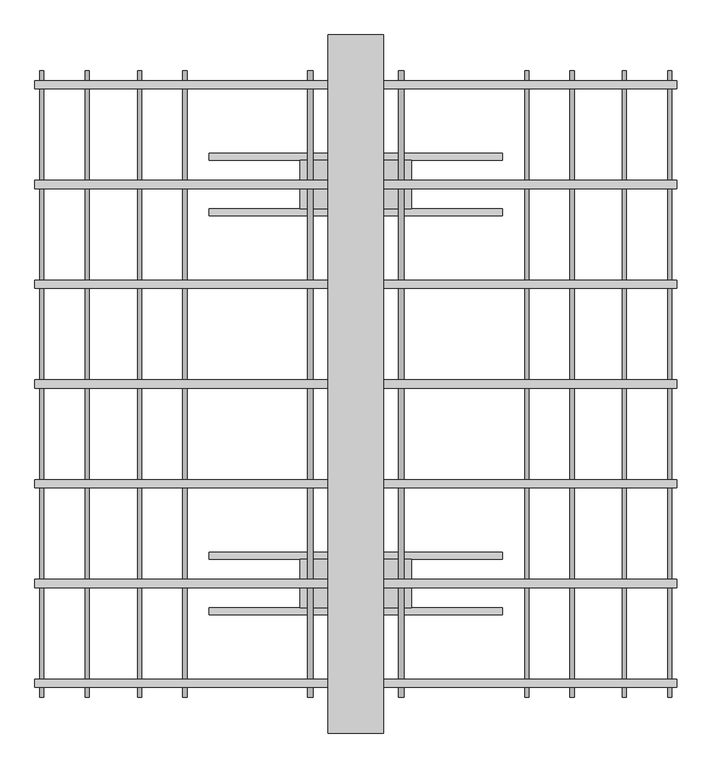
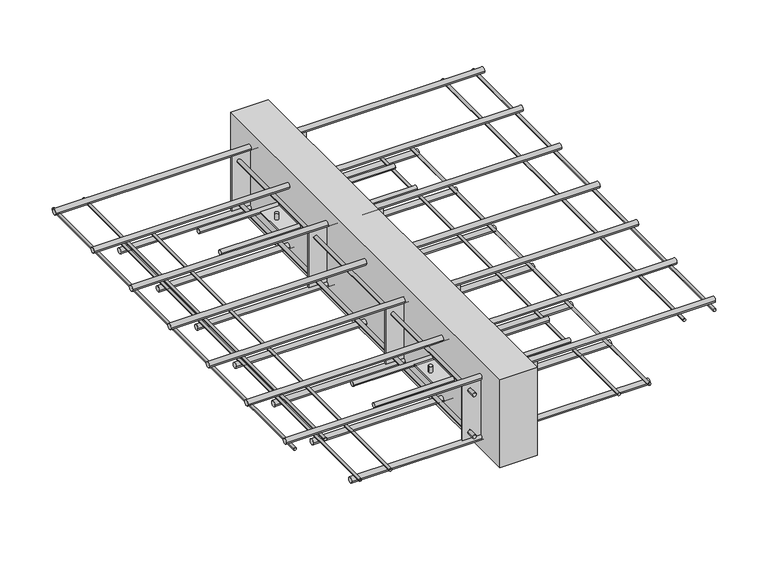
"""IFC4 building model written with IfcOpenShell, lengths in millimetres: fastener geometry, ACINOXplus_Typenreihe_K : KE+ S2."""

import ifcopenshell
import ifcopenshell.guid

model = None  # the IFC model being written
_history = None  # IfcOwnerHistory: only IFC2X3 demands one
_inside = {}  # id of a spatial element -> (the spatial element, [elements in it])
_under = {}  # id of a project, library or spatial element -> (it, [spatial elements below it])
_declared = {}  # id of a project -> (the project, [libraries it declares])
_typed = {}  # id of a type object -> (the type object, [elements of that type])
_made_of = {}  # id of a material, layer set ... -> (it, [elements and type objects made of it])


def new_model(schema):
    """Start an empty IFC model of exactly this schema.

    Asked for "IFC4X3", IfcOpenShell would pick the latest addendum, in which some entities
    have other attributes; the version numbers below select the first issue.
    IFC2X3 requires an IfcOwnerHistory on every rooted entity: one is made here for all.
    """
    global model, _history
    if schema == "IFC4X3":
        model = ifcopenshell.file(schema_version=(4, 3, 0, 0))
    else:
        model = ifcopenshell.file(schema=schema)
    _inside.clear()
    _under.clear()
    _declared.clear()
    _typed.clear()
    _made_of.clear()
    _history = None
    if model.schema == "IFC2X3":
        org = make("IfcOrganization", Name="unknown")
        user = make(
            "IfcPersonAndOrganization",
            ThePerson=make("IfcPerson", FamilyName="unknown"),
            TheOrganization=org,
        )
        app = make(
            "IfcApplication",
            ApplicationDeveloper=org,
            Version="unknown",
            ApplicationFullName="unknown",
            ApplicationIdentifier="unknown",
        )
        _history = make(
            "IfcOwnerHistory",
            OwningUser=user,
            OwningApplication=app,
            ChangeAction="ADDED",
            CreationDate=0,
        )
    return model


def make(cls, **values):
    """One entity of the class cls with the attributes given. An attribute that is None is left unset."""
    return model.create_entity(
        cls, **{name: value for name, value in values.items() if value is not None}
    )


def rooted(cls, **values):
    """An entity with a GlobalId (a new one), such as an element, a storey or a relation."""
    return make(cls, GlobalId=ifcopenshell.guid.new(), OwnerHistory=_history, **values)


def si_unit(unit_type, name, prefix=None):
    """IfcSIUnit, for example si_unit("LENGTHUNIT", "METRE", prefix="MILLI")."""
    return make("IfcSIUnit", UnitType=unit_type, Prefix=prefix, Name=name)


def assignment(units):
    """IfcUnitAssignment: the units of a project."""
    return None if units is None else make("IfcUnitAssignment", Units=units)


def point(xyz):
    """IfcCartesianPoint."""
    return None if xyz is None else make("IfcCartesianPoint", Coordinates=xyz)


def direction(xyz):
    """IfcDirection."""
    return None if xyz is None else make("IfcDirection", DirectionRatios=xyz)


def frame(location, z_axis=None, x_axis=None):
    """IfcAxis2Placement3D, a coordinate frame: its origin and axes. An axis left out is left unset."""
    return make(
        "IfcAxis2Placement3D",
        Location=point(location),
        Axis=direction(z_axis),
        RefDirection=direction(x_axis),
    )


def frame_2d(location, x_axis=None):
    """IfcAxis2Placement2D, a coordinate frame in the plane: its origin and x axis."""
    return make(
        "IfcAxis2Placement2D", Location=point(location), RefDirection=direction(x_axis)
    )


def origin():
    """The frame at (0, 0, 0) with its axes left unset."""
    return frame((0.0, 0.0, 0.0))


def place(relative_to, where):
    """IfcLocalPlacement: puts the frame where relative to a parent placement (None: the world)."""
    return make(
        "IfcLocalPlacement", PlacementRelTo=relative_to, RelativePlacement=where
    )


def context(
    kind, dimensions, precision=None, world=None, true_north=None, identifier=None
):
    """IfcGeometricRepresentationContext, for example the 3D "Model" context."""
    return make(
        "IfcGeometricRepresentationContext",
        ContextIdentifier=identifier,
        ContextType=kind,
        CoordinateSpaceDimension=dimensions,
        Precision=precision,
        WorldCoordinateSystem=world,
        TrueNorth=true_north,
    )


def project(units=None, contexts=None):
    """IfcProject with its units and contexts."""
    return rooted(
        "IfcProject",
        Name="project",
        RepresentationContexts=contexts,
        UnitsInContext=assignment(units),
    )


def spatial(cls, under=None, at=None, **own):
    """A site, building, storey or space (cls), placed at a placement, below another one or the project."""
    s = rooted(cls, ObjectPlacement=at, **own)
    if under is not None:
        _under.setdefault(under.id(), (under, []))[1].append(s)
    return s


def polyline(points):
    """IfcPolyline through the points."""
    return make("IfcPolyline", Points=[point(p) for p in points])


def circle_curve(where, radius):
    """IfcCircle in the frame where."""
    return make("IfcCircle", Position=where, Radius=radius)


def trimmed(basis, trim1, trim2, sense, master):
    """IfcTrimmedCurve: the piece of a basis curve between two trims."""
    return make(
        "IfcTrimmedCurve",
        BasisCurve=basis,
        Trim1=trim1,
        Trim2=trim2,
        SenseAgreement=sense,
        MasterRepresentation=master,
    )


def segment(curve, same_sense, transition):
    """IfcCompositeCurveSegment."""
    return make(
        "IfcCompositeCurveSegment",
        Transition=transition,
        SameSense=same_sense,
        ParentCurve=curve,
    )


def composite_curve(segments, self_intersect=None):
    """IfcCompositeCurve: segments joined end to end."""
    return make("IfcCompositeCurve", Segments=segments, SelfIntersect=self_intersect)


def outline(outer, holes=None, kind="AREA"):
    """IfcArbitraryClosedProfileDef: a profile drawn as a closed curve; with holes, ...WithVoids."""
    if holes is None:
        return make("IfcArbitraryClosedProfileDef", ProfileType=kind, OuterCurve=outer)
    return make(
        "IfcArbitraryProfileDefWithVoids",
        ProfileType=kind,
        OuterCurve=outer,
        InnerCurves=holes,
    )


def extrude(swept, where, along, depth):
    """IfcExtrudedAreaSolid: the profile swept, set in the frame where, extruded along a direction by depth."""
    return make(
        "IfcExtrudedAreaSolid",
        SweptArea=swept,
        Position=where,
        ExtrudedDirection=direction(along),
        Depth=depth,
    )


def shape(context_of_items, identifier, shape_type, items):
    """IfcShapeRepresentation: the items that make up one representation, for example the "Body"."""
    return make(
        "IfcShapeRepresentation",
        ContextOfItems=context_of_items,
        RepresentationIdentifier=identifier,
        RepresentationType=shape_type,
        Items=items,
    )


def source(mapping_origin, context_of_items, identifier, shape_type, items):
    """IfcRepresentationMap: a shape defined once, which mapped items show again and again."""
    return make(
        "IfcRepresentationMap",
        MappingOrigin=mapping_origin,
        MappedRepresentation=shape(context_of_items, identifier, shape_type, items),
    )


def transform(
    local_origin,
    x_axis=None,
    y_axis=None,
    z_axis=None,
    scale=None,
    scale2=None,
    scale3=None,
    uniform=True,
):
    """IfcCartesianTransformationOperator3D, or its non-uniform kind. x_axis, y_axis, z_axis: its Axis1, 2, 3."""
    if uniform:
        return make(
            "IfcCartesianTransformationOperator3D",
            Axis1=direction(x_axis),
            Axis2=direction(y_axis),
            LocalOrigin=point(local_origin),
            Scale=scale,
            Axis3=direction(z_axis),
        )
    return make(
        "IfcCartesianTransformationOperator3DnonUniform",
        Axis1=direction(x_axis),
        Axis2=direction(y_axis),
        LocalOrigin=point(local_origin),
        Scale=scale,
        Axis3=direction(z_axis),
        Scale2=scale2,
        Scale3=scale3,
    )


def mapped(mapping_source, mapping_target):
    """IfcMappedItem: shows the shape of a source again, moved by a transform."""
    return make(
        "IfcMappedItem", MappingSource=mapping_source, MappingTarget=mapping_target
    )


def made_of(thing, what):
    """Note that an element or type object is made of a material, layer set ...; save() writes the relation."""
    if what is not None:
        _made_of.setdefault(what.id(), (what, []))[1].append(thing)
    return thing


def element(
    cls,
    number,
    at=None,
    inside=None,
    cuts=None,
    type_object=None,
    material=None,
    context=None,
    identifier="Body",
    shape_type=None,
    held_by="IfcProductDefinitionShape",
    body=None,
    shapes=None,
    **own,
):
    """One element of the class cls, such as IfcWall. Its Tag is "e" and its number.

    at: its placement. inside: the storey or other place that contains it. cuts: it is an
    opening in that element (IfcRelVoidsElement). A single representation is given by context,
    identifier, shape_type and body (its items); several are given by shapes. held_by: the class
    of the entity that holds the representations. save() writes the other relations.
    """
    e = rooted(cls, Tag="e%d" % number, ObjectPlacement=at, **own)
    if body is not None:
        shapes = [shape(context, identifier, shape_type, body)]
    if shapes is not None:
        e.Representation = make(held_by, Representations=shapes)
    if inside is not None:
        _inside.setdefault(inside.id(), (inside, []))[1].append(e)
    if cuts is not None:
        rooted(
            "IfcRelVoidsElement", RelatingBuildingElement=cuts, RelatedOpeningElement=e
        )
    if type_object is not None:
        _typed.setdefault(type_object.id(), (type_object, []))[1].append(e)
    return made_of(e, material)


def aggregate(whole, parts):
    """IfcRelAggregates: a whole, such as a stair, and the parts it consists of."""
    return rooted("IfcRelAggregates", RelatingObject=whole, RelatedObjects=parts)


def save(model, path):
    """Write the relations noted so far, then the file.

    IfcRelAggregates (storeys below a building ...), IfcRelContainedInSpatialStructure (elements
    in a storey), IfcRelDefinesByType, IfcRelAssociatesMaterial and IfcRelDeclares: one each for
    every whole, place, type object, material and project.
    """
    for whole, parts in _under.values():
        aggregate(whole, parts)
    for where, things in _inside.values():
        rooted(
            "IfcRelContainedInSpatialStructure",
            RelatedElements=things,
            RelatingStructure=where,
        )
    for kind, things in _typed.values():
        rooted("IfcRelDefinesByType", RelatedObjects=things, RelatingType=kind)
    for what, things in _made_of.values():
        rooted("IfcRelAssociatesMaterial", RelatedObjects=things, RelatingMaterial=what)
    for by, libraries in _declared.values():
        rooted("IfcRelDeclares", RelatingContext=by, RelatedDefinitions=libraries)
    model.write(path)


def plane_surface(at):
    """IfcPlane: the flat surface through the origin of the frame at, square to its z axis."""
    return make("IfcPlane", Position=at)


def cylinder_surface(at, radius):
    """IfcCylindricalSurface: all points at the distance radius from the z axis of the frame at."""
    return make("IfcCylindricalSurface", Position=at, Radius=radius)


def advanced_brep(points, edges, surfaces, faces):
    """IfcAdvancedBrep: a solid bounded by faces that lie on surfaces and meet in shared edges.

    An edge is (start, end): straight between two places in points (the first is 0);
    or (start, end, curve); or (start, end, curve, False) where it runs against its curve.
    A face is (place in surfaces, loops), or (place, loops, False) where it looks against
    its surface's normal. A loop lists edges by number (the first is 1), with a minus sign
    where the edge is run from its end to its start. The first loop is the outer one.
    """
    corners = [point(p) for p in points]
    vertices = [make("IfcVertexPoint", VertexGeometry=c) for c in corners]
    made = []
    for start, end, *more in edges:
        made.append(
            make(
                "IfcEdgeCurve",
                EdgeStart=vertices[start],
                EdgeEnd=vertices[end],
                EdgeGeometry=more[0] if more else make("IfcPolyline", Points=[corners[start], corners[end]]),
                SameSense=more[1] if len(more) > 1 else True,
            )
        )
    hull = []
    for where, loops, *sense in faces:
        bounds = []
        for j, loop in enumerate(loops):
            ring = [make("IfcOrientedEdge", EdgeElement=made[abs(k) - 1], Orientation=k > 0) for k in loop]
            bounds.append(
                make(
                    "IfcFaceOuterBound" if j == 0 else "IfcFaceBound",
                    Bound=make("IfcEdgeLoop", EdgeList=ring),
                    Orientation=True,
                )
            )
        hull.append(make("IfcAdvancedFace", Bounds=bounds, FaceSurface=surfaces[where], SameSense=sense[0] if sense else True))
    return make("IfcAdvancedBrep", Outer=make("IfcClosedShell", CfsFaces=hull))


def fastener_afce8f7f(model_context):
    return source(origin(), model_context, "Body", "SolidModel", [
        extrude(outline(composite_curve([segment(trimmed(circle_curve(frame_2d((-325.7142857, -104.5)), 5.0), [point((-330.7142857, -104.5))], [point((-320.7142857, -104.5))], False, "CARTESIAN"), True, "CONTINUOUS"), segment(trimmed(circle_curve(frame_2d((-325.7142857, -104.5)), 5.0), [point((-320.7142857, -104.5))], [point((-330.7142857, -104.5))], False, "CARTESIAN"), True, "CONTINUOUS")], self_intersect=False)), frame((-210.0, 0.0, 0.0), z_axis=(1.0, 0.0, 0.0), x_axis=(0.0, 1.0, 0.0)), (0.0, 0.0, 1.0), 420.0),
        extrude(outline(composite_curve([segment(trimmed(circle_curve(frame_2d((-245.7142857, -104.5)), 5.0), [point((-250.7142857, -104.5))], [point((-240.7142857, -104.5))], False, "CARTESIAN"), True, "CONTINUOUS"), segment(trimmed(circle_curve(frame_2d((-245.7142857, -104.5)), 5.0), [point((-240.7142857, -104.5))], [point((-250.7142857, -104.5))], False, "CARTESIAN"), True, "CONTINUOUS")], self_intersect=False)), frame((-210.0, 0.0, 0.0), z_axis=(1.0, 0.0, 0.0), x_axis=(0.0, 1.0, 0.0)), (0.0, 0.0, 1.0), 420.0),
        advanced_brep(
        [(-69.0, -285.7142857, -89.5), (-61.0, -285.7142857, -89.5), (61.0, -285.7142857, -89.5), (69.0, -285.7142857, -89.5), (-69.0, -285.7142857, -119.5), (-61.0, -285.7142857, -119.5), (61.0, -285.7142857, -119.5), (69.0, -285.7142857, -119.5), (-69.0, -285.7142857, -103.0), (-61.0, -285.7142857, -103.0), (-61.0, -285.7142857, -106.0), (-69.0, -285.7142857, -106.0), (61.0, -285.7142857, -103.0), (69.0, -285.7142857, -103.0), (69.0, -285.7142857, -106.0), (61.0, -285.7142857, -106.0), (80.0, -250.7142857, -103.0), (-80.0, -250.7142857, -103.0), (-80.0, -320.7142857, -103.0), (80.0, -320.7142857, -103.0), (80.0, -250.7142857, -106.0), (80.0, -320.7142857, -106.0), (-80.0, -320.7142857, -106.0), (-80.0, -250.7142857, -106.0)],
        [
            (0, 1, circle_curve(frame((-65.0, -285.7142857, -89.5), z_axis=(0.0, 0.0, 1.0), x_axis=(1.0, 0.0, 0.0)), 4.0)),
            (1, 0, circle_curve(frame((-65.0, -285.7142857, -89.5), z_axis=(0.0, 0.0, 1.0), x_axis=(1.0, 0.0, 0.0)), 4.0)),
            (2, 3, circle_curve(frame((65.0, -285.7142857, -89.5), z_axis=(0.0, 0.0, 1.0), x_axis=(1.0, 0.0, 0.0)), 4.0)),
            (3, 2, circle_curve(frame((65.0, -285.7142857, -89.5), z_axis=(0.0, 0.0, 1.0), x_axis=(1.0, 0.0, 0.0)), 4.0)),
            (4, 5, circle_curve(frame((-65.0, -285.7142857, -119.5), z_axis=(0.0, 0.0, -1.0), x_axis=(1.0, 0.0, 0.0)), 4.0)),
            (5, 4, circle_curve(frame((-65.0, -285.7142857, -119.5), z_axis=(0.0, 0.0, -1.0), x_axis=(1.0, 0.0, 0.0)), 4.0)),
            (6, 7, circle_curve(frame((65.0, -285.7142857, -119.5), z_axis=(0.0, 0.0, -1.0), x_axis=(1.0, 0.0, 0.0)), 4.0)),
            (7, 6, circle_curve(frame((65.0, -285.7142857, -119.5), z_axis=(0.0, 0.0, -1.0), x_axis=(1.0, 0.0, 0.0)), 4.0)),
            (0, 8),
            (8, 9, circle_curve(frame((-65.0, -285.7142857, -103.0), z_axis=(0.0, 0.0, 1.0), x_axis=(1.0, 0.0, 0.0)), 4.0)),
            (9, 1),
            (5, 10),
            (10, 11, circle_curve(frame((-65.0, -285.7142857, -106.0), z_axis=(0.0, 0.0, -1.0), x_axis=(1.0, 0.0, 0.0)), 4.0)),
            (11, 4),
            (9, 8, circle_curve(frame((-65.0, -285.7142857, -103.0), z_axis=(0.0, 0.0, 1.0), x_axis=(1.0, 0.0, 0.0)), 4.0)),
            (11, 10, circle_curve(frame((-65.0, -285.7142857, -106.0), z_axis=(0.0, 0.0, -1.0), x_axis=(1.0, 0.0, 0.0)), 4.0)),
            (2, 12),
            (12, 13, circle_curve(frame((65.0, -285.7142857, -103.0), z_axis=(0.0, 0.0, 1.0), x_axis=(1.0, 0.0, 0.0)), 4.0)),
            (13, 3),
            (7, 14),
            (14, 15, circle_curve(frame((65.0, -285.7142857, -106.0), z_axis=(0.0, 0.0, -1.0), x_axis=(1.0, 0.0, 0.0)), 4.0)),
            (15, 6),
            (13, 12, circle_curve(frame((65.0, -285.7142857, -103.0), z_axis=(0.0, 0.0, 1.0), x_axis=(1.0, 0.0, 0.0)), 4.0)),
            (15, 14, circle_curve(frame((65.0, -285.7142857, -106.0), z_axis=(0.0, 0.0, -1.0), x_axis=(1.0, 0.0, 0.0)), 4.0)),
            (16, 17),
            (17, 18),
            (18, 19),
            (19, 16),
            (20, 21),
            (21, 22),
            (22, 23),
            (23, 20),
            (16, 20),
            (23, 17),
            (22, 18),
            (21, 19),
        ],
        [
            plane_surface(frame((-61.0, -285.7142857, -89.5), z_axis=(0.0, 0.0, 1.0), x_axis=(0.0, 1.0, 0.0))),
            plane_surface(frame((-61.0, -285.7142857, -119.5), z_axis=(0.0, 0.0, -1.0), x_axis=(0.0, -1.0, 0.0))),
            cylinder_surface(frame((-65.0, -285.7142857, -119.5), z_axis=(0.0, 0.0, 1.0), x_axis=(1.0, 0.0, 0.0)), 4.0),
            cylinder_surface(frame((65.0, -285.7142857, -104.5), z_axis=(0.0, 0.0, 1.0), x_axis=(1.0, 0.0, 0.0)), 4.0),
            plane_surface(frame((-80.0, -250.7142857, -103.0), z_axis=(0.0, 0.0, 1.0), x_axis=(-1.0, 0.0, 0.0))),
            plane_surface(frame((-80.0, -250.7142857, -106.0), z_axis=(0.0, 0.0, -1.0), x_axis=(1.0, 0.0, 0.0))),
            plane_surface(frame((80.0, -250.7142857, -103.0), z_axis=(0.0, 1.0, 0.0), x_axis=(0.0, 0.0, -1.0))),
            plane_surface(frame((-80.0, -250.7142857, -103.0), z_axis=(-1.0, 0.0, 0.0), x_axis=(0.0, 0.0, -1.0))),
            plane_surface(frame((-80.0, -320.7142857, -103.0), z_axis=(0.0, -1.0, 0.0), x_axis=(0.0, 0.0, -1.0))),
            plane_surface(frame((80.0, -320.7142857, -103.0), z_axis=(1.0, 0.0, 0.0), x_axis=(0.0, 0.0, -1.0))),
        ],
        [
            (0, [[1, 2]]),
            (0, [[3, 4]]),
            (1, [[5, 6]]),
            (1, [[7, 8]]),
            (2, [[-1, 9, 10, 11]]),
            (2, [[-6, 12, 13, 14]]),
            (2, [[-2, -11, 15, -9]]),
            (2, [[-5, -14, 16, -12]]),
            (3, [[-3, 17, 18, 19]]),
            (3, [[-8, 20, 21, 22]]),
            (3, [[-4, -19, 23, -17]]),
            (3, [[-7, -22, 24, -20]]),
            (4, [[25, 26, 27, 28], [-10, -15], [-18, -23]]),
            (5, [[29, 30, 31, 32], [-13, -16], [-21, -24]]),
            (6, [[-25, 33, -32, 34]]),
            (7, [[-26, -34, -31, 35]]),
            (8, [[-27, -35, -30, 36]]),
            (9, [[-28, -36, -29, -33]]),
        ],
    ),
        extrude(outline(composite_curve([segment(trimmed(circle_curve(frame_2d((245.7142857, -104.5)), 5.0), [point((240.7142857, -104.5))], [point((250.7142857, -104.5))], False, "CARTESIAN"), True, "CONTINUOUS"), segment(trimmed(circle_curve(frame_2d((245.7142857, -104.5)), 5.0), [point((250.7142857, -104.5))], [point((240.7142857, -104.5))], False, "CARTESIAN"), True, "CONTINUOUS")], self_intersect=False)), frame((-210.0, 0.0, 0.0), z_axis=(1.0, 0.0, 0.0), x_axis=(0.0, 1.0, 0.0)), (0.0, 0.0, 1.0), 420.0),
        extrude(outline(composite_curve([segment(trimmed(circle_curve(frame_2d((325.7142857, -104.5)), 5.0), [point((320.7142857, -104.5))], [point((330.7142857, -104.5))], False, "CARTESIAN"), True, "CONTINUOUS"), segment(trimmed(circle_curve(frame_2d((325.7142857, -104.5)), 5.0), [point((330.7142857, -104.5))], [point((320.7142857, -104.5))], False, "CARTESIAN"), True, "CONTINUOUS")], self_intersect=False)), frame((-210.0, 0.0, 0.0), z_axis=(1.0, 0.0, 0.0), x_axis=(0.0, 1.0, 0.0)), (0.0, 0.0, 1.0), 420.0),
        advanced_brep(
        [(-69.0, 285.7142857, -89.5), (-61.0, 285.7142857, -89.5), (61.0, 285.7142857, -89.5), (69.0, 285.7142857, -89.5), (-69.0, 285.7142857, -119.5), (-61.0, 285.7142857, -119.5), (61.0, 285.7142857, -119.5), (69.0, 285.7142857, -119.5), (-69.0, 285.7142857, -103.0), (-61.0, 285.7142857, -103.0), (-61.0, 285.7142857, -106.0), (-69.0, 285.7142857, -106.0), (61.0, 285.7142857, -103.0), (69.0, 285.7142857, -103.0), (69.0, 285.7142857, -106.0), (61.0, 285.7142857, -106.0), (80.0, 320.7142857, -103.0), (-80.0, 320.7142857, -103.0), (-80.0, 250.7142857, -103.0), (80.0, 250.7142857, -103.0), (80.0, 320.7142857, -106.0), (80.0, 250.7142857, -106.0), (-80.0, 250.7142857, -106.0), (-80.0, 320.7142857, -106.0)],
        [
            (0, 1, circle_curve(frame((-65.0, 285.7142857, -89.5), z_axis=(0.0, 0.0, 1.0), x_axis=(1.0, 0.0, 0.0)), 4.0)),
            (1, 0, circle_curve(frame((-65.0, 285.7142857, -89.5), z_axis=(0.0, 0.0, 1.0), x_axis=(1.0, 0.0, 0.0)), 4.0)),
            (2, 3, circle_curve(frame((65.0, 285.7142857, -89.5), z_axis=(0.0, 0.0, 1.0), x_axis=(1.0, 0.0, 0.0)), 4.0)),
            (3, 2, circle_curve(frame((65.0, 285.7142857, -89.5), z_axis=(0.0, 0.0, 1.0), x_axis=(1.0, 0.0, 0.0)), 4.0)),
            (4, 5, circle_curve(frame((-65.0, 285.7142857, -119.5), z_axis=(0.0, 0.0, -1.0), x_axis=(1.0, 0.0, 0.0)), 4.0)),
            (5, 4, circle_curve(frame((-65.0, 285.7142857, -119.5), z_axis=(0.0, 0.0, -1.0), x_axis=(1.0, 0.0, 0.0)), 4.0)),
            (6, 7, circle_curve(frame((65.0, 285.7142857, -119.5), z_axis=(0.0, 0.0, -1.0), x_axis=(1.0, 0.0, 0.0)), 4.0)),
            (7, 6, circle_curve(frame((65.0, 285.7142857, -119.5), z_axis=(0.0, 0.0, -1.0), x_axis=(1.0, 0.0, 0.0)), 4.0)),
            (0, 8),
            (8, 9, circle_curve(frame((-65.0, 285.7142857, -103.0), z_axis=(0.0, 0.0, 1.0), x_axis=(1.0, 0.0, 0.0)), 4.0)),
            (9, 1),
            (5, 10),
            (10, 11, circle_curve(frame((-65.0, 285.7142857, -106.0), z_axis=(0.0, 0.0, -1.0), x_axis=(1.0, 0.0, 0.0)), 4.0)),
            (11, 4),
            (9, 8, circle_curve(frame((-65.0, 285.7142857, -103.0), z_axis=(0.0, 0.0, 1.0), x_axis=(1.0, 0.0, 0.0)), 4.0)),
            (11, 10, circle_curve(frame((-65.0, 285.7142857, -106.0), z_axis=(0.0, 0.0, -1.0), x_axis=(1.0, 0.0, 0.0)), 4.0)),
            (2, 12),
            (12, 13, circle_curve(frame((65.0, 285.7142857, -103.0), z_axis=(0.0, 0.0, 1.0), x_axis=(1.0, 0.0, 0.0)), 4.0)),
            (13, 3),
            (7, 14),
            (14, 15, circle_curve(frame((65.0, 285.7142857, -106.0), z_axis=(0.0, 0.0, -1.0), x_axis=(1.0, 0.0, 0.0)), 4.0)),
            (15, 6),
            (13, 12, circle_curve(frame((65.0, 285.7142857, -103.0), z_axis=(0.0, 0.0, 1.0), x_axis=(1.0, 0.0, 0.0)), 4.0)),
            (15, 14, circle_curve(frame((65.0, 285.7142857, -106.0), z_axis=(0.0, 0.0, -1.0), x_axis=(1.0, 0.0, 0.0)), 4.0)),
            (16, 17),
            (17, 18),
            (18, 19),
            (19, 16),
            (20, 21),
            (21, 22),
            (22, 23),
            (23, 20),
            (16, 20),
            (23, 17),
            (22, 18),
            (21, 19),
        ],
        [
            plane_surface(frame((-61.0, 285.7142857, -89.5), z_axis=(0.0, 0.0, 1.0), x_axis=(0.0, 1.0, 0.0))),
            plane_surface(frame((-61.0, 285.7142857, -119.5), z_axis=(0.0, 0.0, -1.0), x_axis=(0.0, -1.0, 0.0))),
            cylinder_surface(frame((-65.0, 285.7142857, -119.5), z_axis=(0.0, 0.0, 1.0), x_axis=(1.0, 0.0, 0.0)), 4.0),
            cylinder_surface(frame((65.0, 285.7142857, -104.5), z_axis=(0.0, 0.0, 1.0), x_axis=(1.0, 0.0, 0.0)), 4.0),
            plane_surface(frame((-80.0, 320.7142857, -103.0), z_axis=(0.0, 0.0, 1.0), x_axis=(-1.0, 0.0, 0.0))),
            plane_surface(frame((-80.0, 320.7142857, -106.0), z_axis=(0.0, 0.0, -1.0), x_axis=(1.0, 0.0, 0.0))),
            plane_surface(frame((80.0, 320.7142857, -103.0), z_axis=(0.0, 1.0, 0.0), x_axis=(0.0, 0.0, -1.0))),
            plane_surface(frame((-80.0, 320.7142857, -103.0), z_axis=(-1.0, 0.0, 0.0), x_axis=(0.0, 0.0, -1.0))),
            plane_surface(frame((-80.0, 250.7142857, -103.0), z_axis=(0.0, -1.0, 0.0), x_axis=(0.0, 0.0, -1.0))),
            plane_surface(frame((80.0, 250.7142857, -103.0), z_axis=(1.0, 0.0, 0.0), x_axis=(0.0, 0.0, -1.0))),
        ],
        [
            (0, [[1, 2]]),
            (0, [[3, 4]]),
            (1, [[5, 6]]),
            (1, [[7, 8]]),
            (2, [[-1, 9, 10, 11]]),
            (2, [[-6, 12, 13, 14]]),
            (2, [[-2, -11, 15, -9]]),
            (2, [[-5, -14, 16, -12]]),
            (3, [[-3, 17, 18, 19]]),
            (3, [[-8, 20, 21, 22]]),
            (3, [[-4, -19, 23, -17]]),
            (3, [[-7, -22, 24, -20]]),
            (4, [[25, 26, 27, 28], [-10, -15], [-18, -23]]),
            (5, [[29, 30, 31, 32], [-13, -16], [-21, -24]]),
            (6, [[-25, 33, -32, 34]]),
            (7, [[-26, -34, -31, 35]]),
            (8, [[-27, -35, -30, 36]]),
            (9, [[-28, -36, -29, -33]]),
        ],
    ),
        extrude(outline(polyline([(40.0, 500.0), (40.0, -500.0), (-40.0, -500.0), (-40.0, 500.0), (40.0, 500.0)])), frame((0.0, 0.0, -200.0), z_axis=(0.0, 0.0, 1.0), x_axis=(1.0, 0.0, 0.0)), (0.0, 0.0, 1.0), 200.0),
        extrude(outline(polyline([(80.0, -141.3571429), (80.0, -144.3571429), (-80.0, -144.3571429), (-80.0, -141.3571429), (80.0, -141.3571429)])), frame((0.0, 0.0, -167.0), z_axis=(0.0, 0.0, 1.0), x_axis=(1.0, 0.0, 0.0)), (0.0, 0.0, 1.0), 125.0),
        extrude(outline(polyline([(80.0, 144.3571429), (80.0, 141.3571429), (-80.0, 141.3571429), (-80.0, 144.3571429), (80.0, 144.3571429)])), frame((0.0, 0.0, -167.0), z_axis=(0.0, 0.0, 1.0), x_axis=(1.0, 0.0, 0.0)), (0.0, 0.0, 1.0), 125.0),
        extrude(outline(polyline([(80.0, -427.0714286), (80.0, -430.0714286), (-80.0, -430.0714286), (-80.0, -427.0714286), (80.0, -427.0714286)])), frame((0.0, 0.0, -167.0), z_axis=(0.0, 0.0, 1.0), x_axis=(1.0, 0.0, 0.0)), (0.0, 0.0, 1.0), 125.0),
        extrude(outline(polyline([(80.0, 430.0714286), (80.0, 427.0714286), (-80.0, 427.0714286), (-80.0, 430.0714286), (80.0, 430.0714286)])), frame((0.0, 0.0, -167.0), z_axis=(0.0, 0.0, 1.0), x_axis=(1.0, 0.0, 0.0)), (0.0, 0.0, 1.0), 125.0),
        extrude(outline(composite_curve([segment(trimmed(circle_curve(frame_2d((-152.0, -65.0)), 4.0), [point((-152.0, -61.0))], [point((-152.0, -69.0))], False, "CARTESIAN"), True, "CONTINUOUS"), segment(trimmed(circle_curve(frame_2d((-152.0, -65.0)), 4.0), [point((-152.0, -69.0))], [point((-152.0, -61.0))], False, "CARTESIAN"), True, "CONTINUOUS")], self_intersect=False)), frame((0.0, -448.5714286, 0.0), z_axis=(0.0, 1.0, 0.0), x_axis=(0.0, 0.0, 1.0)), (0.0, 0.0, 1.0), 18.5),
        extrude(outline(composite_curve([segment(trimmed(circle_curve(frame_2d((-152.0, -65.0)), 4.0), [point((-152.0, -69.0))], [point((-152.0, -61.0))], False, "CARTESIAN"), True, "CONTINUOUS"), segment(trimmed(circle_curve(frame_2d((-152.0, -65.0)), 4.0), [point((-152.0, -61.0))], [point((-152.0, -69.0))], False, "CARTESIAN"), True, "CONTINUOUS")], self_intersect=False)), frame((0.0, -427.0714286, 0.0), z_axis=(0.0, 1.0, 0.0), x_axis=(0.0, 0.0, 1.0)), (0.0, 0.0, 1.0), 568.4285714),
        extrude(outline(composite_curve([segment(trimmed(circle_curve(frame_2d((-152.0, -65.0)), 4.0), [point((-152.0, -69.0))], [point((-152.0, -61.0))], False, "CARTESIAN"), True, "CONTINUOUS"), segment(trimmed(circle_curve(frame_2d((-152.0, -65.0)), 4.0), [point((-152.0, -61.0))], [point((-152.0, -69.0))], False, "CARTESIAN"), True, "CONTINUOUS")], self_intersect=False)), frame((0.0, 430.0714286, 0.0), z_axis=(0.0, 1.0, 0.0), x_axis=(0.0, 0.0, 1.0)), (0.0, 0.0, 1.0), 18.5),
        extrude(outline(composite_curve([segment(trimmed(circle_curve(frame_2d((-152.0, -65.0)), 4.0), [point((-152.0, -69.0))], [point((-152.0, -61.0))], False, "CARTESIAN"), True, "CONTINUOUS"), segment(trimmed(circle_curve(frame_2d((-152.0, -65.0)), 4.0), [point((-152.0, -61.0))], [point((-152.0, -69.0))], False, "CARTESIAN"), True, "CONTINUOUS")], self_intersect=False)), frame((0.0, 144.3571429, 0.0), z_axis=(0.0, 1.0, 0.0), x_axis=(0.0, 0.0, 1.0)), (0.0, 0.0, 1.0), 282.7142857),
        extrude(outline(composite_curve([segment(trimmed(circle_curve(frame_2d((-152.0, 65.0)), 4.0), [point((-152.0, 69.0))], [point((-152.0, 61.0))], False, "CARTESIAN"), True, "CONTINUOUS"), segment(trimmed(circle_curve(frame_2d((-152.0, 65.0)), 4.0), [point((-152.0, 61.0))], [point((-152.0, 69.0))], False, "CARTESIAN"), True, "CONTINUOUS")], self_intersect=False)), frame((0.0, -448.5714286, 0.0), z_axis=(0.0, 1.0, 0.0), x_axis=(0.0, 0.0, 1.0)), (0.0, 0.0, 1.0), 18.5),
        extrude(outline(composite_curve([segment(trimmed(circle_curve(frame_2d((-152.0, 65.0)), 4.0), [point((-152.0, 61.0))], [point((-152.0, 69.0))], False, "CARTESIAN"), True, "CONTINUOUS"), segment(trimmed(circle_curve(frame_2d((-152.0, 65.0)), 4.0), [point((-152.0, 69.0))], [point((-152.0, 61.0))], False, "CARTESIAN"), True, "CONTINUOUS")], self_intersect=False)), frame((0.0, -427.0714286, 0.0), z_axis=(0.0, 1.0, 0.0), x_axis=(0.0, 0.0, 1.0)), (0.0, 0.0, 1.0), 568.4285714),
        extrude(outline(composite_curve([segment(trimmed(circle_curve(frame_2d((-152.0, 65.0)), 4.0), [point((-152.0, 61.0))], [point((-152.0, 69.0))], False, "CARTESIAN"), True, "CONTINUOUS"), segment(trimmed(circle_curve(frame_2d((-152.0, 65.0)), 4.0), [point((-152.0, 69.0))], [point((-152.0, 61.0))], False, "CARTESIAN"), True, "CONTINUOUS")], self_intersect=False)), frame((0.0, 430.0714286, 0.0), z_axis=(0.0, 1.0, 0.0), x_axis=(0.0, 0.0, 1.0)), (0.0, 0.0, 1.0), 18.5),
        extrude(outline(composite_curve([segment(trimmed(circle_curve(frame_2d((-152.0, 65.0)), 4.0), [point((-152.0, 61.0))], [point((-152.0, 69.0))], False, "CARTESIAN"), True, "CONTINUOUS"), segment(trimmed(circle_curve(frame_2d((-152.0, 65.0)), 4.0), [point((-152.0, 69.0))], [point((-152.0, 61.0))], False, "CARTESIAN"), True, "CONTINUOUS")], self_intersect=False)), frame((0.0, 144.3571429, 0.0), z_axis=(0.0, 1.0, 0.0), x_axis=(0.0, 0.0, 1.0)), (0.0, 0.0, 1.0), 282.7142857),
        extrude(outline(composite_curve([segment(trimmed(circle_curve(frame_2d((-57.0, -65.0)), 4.0), [point((-57.0, -61.0))], [point((-57.0, -69.0))], False, "CARTESIAN"), True, "CONTINUOUS"), segment(trimmed(circle_curve(frame_2d((-57.0, -65.0)), 4.0), [point((-57.0, -69.0))], [point((-57.0, -61.0))], False, "CARTESIAN"), True, "CONTINUOUS")], self_intersect=False)), frame((0.0, -448.5714286, 0.0), z_axis=(0.0, 1.0, 0.0), x_axis=(0.0, 0.0, 1.0)), (0.0, 0.0, 1.0), 18.5),
        extrude(outline(composite_curve([segment(trimmed(circle_curve(frame_2d((-57.0, -65.0)), 4.0), [point((-57.0, -69.0))], [point((-57.0, -61.0))], False, "CARTESIAN"), True, "CONTINUOUS"), segment(trimmed(circle_curve(frame_2d((-57.0, -65.0)), 4.0), [point((-57.0, -61.0))], [point((-57.0, -69.0))], False, "CARTESIAN"), True, "CONTINUOUS")], self_intersect=False)), frame((0.0, -427.0714286, 0.0), z_axis=(0.0, 1.0, 0.0), x_axis=(0.0, 0.0, 1.0)), (0.0, 0.0, 1.0), 568.4285714),
        extrude(outline(composite_curve([segment(trimmed(circle_curve(frame_2d((-57.0, -65.0)), 4.0), [point((-57.0, -69.0))], [point((-57.0, -61.0))], False, "CARTESIAN"), True, "CONTINUOUS"), segment(trimmed(circle_curve(frame_2d((-57.0, -65.0)), 4.0), [point((-57.0, -61.0))], [point((-57.0, -69.0))], False, "CARTESIAN"), True, "CONTINUOUS")], self_intersect=False)), frame((0.0, 430.0714286, 0.0), z_axis=(0.0, 1.0, 0.0), x_axis=(0.0, 0.0, 1.0)), (0.0, 0.0, 1.0), 18.5),
        extrude(outline(composite_curve([segment(trimmed(circle_curve(frame_2d((-57.0, -65.0)), 4.0), [point((-57.0, -69.0))], [point((-57.0, -61.0))], False, "CARTESIAN"), True, "CONTINUOUS"), segment(trimmed(circle_curve(frame_2d((-57.0, -65.0)), 4.0), [point((-57.0, -61.0))], [point((-57.0, -69.0))], False, "CARTESIAN"), True, "CONTINUOUS")], self_intersect=False)), frame((0.0, 144.3571429, 0.0), z_axis=(0.0, 1.0, 0.0), x_axis=(0.0, 0.0, 1.0)), (0.0, 0.0, 1.0), 282.7142857),
        extrude(outline(composite_curve([segment(trimmed(circle_curve(frame_2d((-57.0, 65.0)), 4.0), [point((-57.0, 69.0))], [point((-57.0, 61.0))], False, "CARTESIAN"), True, "CONTINUOUS"), segment(trimmed(circle_curve(frame_2d((-57.0, 65.0)), 4.0), [point((-57.0, 61.0))], [point((-57.0, 69.0))], False, "CARTESIAN"), True, "CONTINUOUS")], self_intersect=False)), frame((0.0, -448.5714286, 0.0), z_axis=(0.0, 1.0, 0.0), x_axis=(0.0, 0.0, 1.0)), (0.0, 0.0, 1.0), 18.5),
        extrude(outline(composite_curve([segment(trimmed(circle_curve(frame_2d((-57.0, 65.0)), 4.0), [point((-57.0, 61.0))], [point((-57.0, 69.0))], False, "CARTESIAN"), True, "CONTINUOUS"), segment(trimmed(circle_curve(frame_2d((-57.0, 65.0)), 4.0), [point((-57.0, 69.0))], [point((-57.0, 61.0))], False, "CARTESIAN"), True, "CONTINUOUS")], self_intersect=False)), frame((0.0, -427.0714286, 0.0), z_axis=(0.0, 1.0, 0.0), x_axis=(0.0, 0.0, 1.0)), (0.0, 0.0, 1.0), 568.4285714),
        extrude(outline(composite_curve([segment(trimmed(circle_curve(frame_2d((-57.0, 65.0)), 4.0), [point((-57.0, 61.0))], [point((-57.0, 69.0))], False, "CARTESIAN"), True, "CONTINUOUS"), segment(trimmed(circle_curve(frame_2d((-57.0, 65.0)), 4.0), [point((-57.0, 69.0))], [point((-57.0, 61.0))], False, "CARTESIAN"), True, "CONTINUOUS")], self_intersect=False)), frame((0.0, 430.0714286, 0.0), z_axis=(0.0, 1.0, 0.0), x_axis=(0.0, 0.0, 1.0)), (0.0, 0.0, 1.0), 18.5),
        extrude(outline(composite_curve([segment(trimmed(circle_curve(frame_2d((-57.0, 65.0)), 4.0), [point((-57.0, 61.0))], [point((-57.0, 69.0))], False, "CARTESIAN"), True, "CONTINUOUS"), segment(trimmed(circle_curve(frame_2d((-57.0, 65.0)), 4.0), [point((-57.0, 69.0))], [point((-57.0, 61.0))], False, "CARTESIAN"), True, "CONTINUOUS")], self_intersect=False)), frame((0.0, 144.3571429, 0.0), z_axis=(0.0, 1.0, 0.0), x_axis=(0.0, 0.0, 1.0)), (0.0, 0.0, 1.0), 282.7142857),
        extrude(outline(composite_curve([segment(trimmed(circle_curve(frame_2d((142.8571429, -173.0)), 6.0), [point((136.8571429, -173.0))], [point((148.8571429, -173.0))], False, "CARTESIAN"), True, "CONTINUOUS"), segment(trimmed(circle_curve(frame_2d((142.8571429, -173.0)), 6.0), [point((148.8571429, -173.0))], [point((136.8571429, -173.0))], False, "CARTESIAN"), True, "CONTINUOUS")], self_intersect=False)), frame((-320.0, 0.0, 0.0), z_axis=(1.0, 0.0, 0.0), x_axis=(0.0, 1.0, 0.0)), (0.0, 0.0, 1.0), 640.0),
        extrude(outline(composite_curve([segment(trimmed(circle_curve(frame_2d((0.0, -173.0)), 6.0), [point((-6.0, -173.0))], [point((6.0, -173.0))], False, "CARTESIAN"), True, "CONTINUOUS"), segment(trimmed(circle_curve(frame_2d((0.0, -173.0)), 6.0), [point((6.0, -173.0))], [point((-6.0, -173.0))], False, "CARTESIAN"), True, "CONTINUOUS")], self_intersect=False)), frame((-320.0, 0.0, 0.0), z_axis=(1.0, 0.0, 0.0), x_axis=(0.0, 1.0, 0.0)), (0.0, 0.0, 1.0), 640.0),
        extrude(outline(composite_curve([segment(trimmed(circle_curve(frame_2d((-142.8571429, -173.0)), 6.0), [point((-148.8571429, -173.0))], [point((-136.8571429, -173.0))], False, "CARTESIAN"), True, "CONTINUOUS"), segment(trimmed(circle_curve(frame_2d((-142.8571429, -173.0)), 6.0), [point((-136.8571429, -173.0))], [point((-148.8571429, -173.0))], False, "CARTESIAN"), True, "CONTINUOUS")], self_intersect=False)), frame((-320.0, 0.0, 0.0), z_axis=(1.0, 0.0, 0.0), x_axis=(0.0, 1.0, 0.0)), (0.0, 0.0, 1.0), 640.0),
        extrude(outline(composite_curve([segment(trimmed(circle_curve(frame_2d((285.7142857, -173.0)), 6.0), [point((279.7142857, -173.0))], [point((291.7142857, -173.0))], False, "CARTESIAN"), True, "CONTINUOUS"), segment(trimmed(circle_curve(frame_2d((285.7142857, -173.0)), 6.0), [point((291.7142857, -173.0))], [point((279.7142857, -173.0))], False, "CARTESIAN"), True, "CONTINUOUS")], self_intersect=False)), frame((-320.0, 0.0, 0.0), z_axis=(1.0, 0.0, 0.0), x_axis=(0.0, 1.0, 0.0)), (0.0, 0.0, 1.0), 640.0),
        extrude(outline(composite_curve([segment(trimmed(circle_curve(frame_2d((428.5714286, -173.0)), 6.0), [point((422.5714286, -173.0))], [point((434.5714286, -173.0))], False, "CARTESIAN"), True, "CONTINUOUS"), segment(trimmed(circle_curve(frame_2d((428.5714286, -173.0)), 6.0), [point((434.5714286, -173.0))], [point((422.5714286, -173.0))], False, "CARTESIAN"), True, "CONTINUOUS")], self_intersect=False)), frame((-320.0, 0.0, 0.0), z_axis=(1.0, 0.0, 0.0), x_axis=(0.0, 1.0, 0.0)), (0.0, 0.0, 1.0), 640.0),
        extrude(outline(composite_curve([segment(trimmed(circle_curve(frame_2d((-285.7142857, -173.0)), 6.0), [point((-291.7142857, -173.0))], [point((-279.7142857, -173.0))], False, "CARTESIAN"), True, "CONTINUOUS"), segment(trimmed(circle_curve(frame_2d((-285.7142857, -173.0)), 6.0), [point((-279.7142857, -173.0))], [point((-291.7142857, -173.0))], False, "CARTESIAN"), True, "CONTINUOUS")], self_intersect=False)), frame((-320.0, 0.0, 0.0), z_axis=(1.0, 0.0, 0.0), x_axis=(0.0, 1.0, 0.0)), (0.0, 0.0, 1.0), 640.0),
        extrude(outline(composite_curve([segment(trimmed(circle_curve(frame_2d((-428.5714286, -173.0)), 6.0), [point((-434.5714286, -173.0))], [point((-422.5714286, -173.0))], False, "CARTESIAN"), True, "CONTINUOUS"), segment(trimmed(circle_curve(frame_2d((-428.5714286, -173.0)), 6.0), [point((-422.5714286, -173.0))], [point((-434.5714286, -173.0))], False, "CARTESIAN"), True, "CONTINUOUS")], self_intersect=False)), frame((-320.0, 0.0, 0.0), z_axis=(1.0, 0.0, 0.0), x_axis=(0.0, 1.0, 0.0)), (0.0, 0.0, 1.0), 640.0),
        extrude(outline(composite_curve([segment(trimmed(circle_curve(frame_2d((142.8571429, -36.0)), 6.0), [point((136.8571429, -36.0))], [point((148.8571429, -36.0))], False, "CARTESIAN"), True, "CONTINUOUS"), segment(trimmed(circle_curve(frame_2d((142.8571429, -36.0)), 6.0), [point((148.8571429, -36.0))], [point((136.8571429, -36.0))], False, "CARTESIAN"), True, "CONTINUOUS")], self_intersect=False)), frame((-460.0, 0.0, 0.0), z_axis=(1.0, 0.0, 0.0), x_axis=(0.0, 1.0, 0.0)), (0.0, 0.0, 1.0), 920.0),
        extrude(outline(composite_curve([segment(trimmed(circle_curve(frame_2d((0.0, -36.0)), 6.0), [point((-6.0, -36.0))], [point((6.0, -36.0))], False, "CARTESIAN"), True, "CONTINUOUS"), segment(trimmed(circle_curve(frame_2d((0.0, -36.0)), 6.0), [point((6.0, -36.0))], [point((-6.0, -36.0))], False, "CARTESIAN"), True, "CONTINUOUS")], self_intersect=False)), frame((-460.0, 0.0, 0.0), z_axis=(1.0, 0.0, 0.0), x_axis=(0.0, 1.0, 0.0)), (0.0, 0.0, 1.0), 920.0),
        extrude(outline(composite_curve([segment(trimmed(circle_curve(frame_2d((-142.8571429, -36.0)), 6.0), [point((-148.8571429, -36.0))], [point((-136.8571429, -36.0))], False, "CARTESIAN"), True, "CONTINUOUS"), segment(trimmed(circle_curve(frame_2d((-142.8571429, -36.0)), 6.0), [point((-136.8571429, -36.0))], [point((-148.8571429, -36.0))], False, "CARTESIAN"), True, "CONTINUOUS")], self_intersect=False)), frame((-460.0, 0.0, 0.0), z_axis=(1.0, 0.0, 0.0), x_axis=(0.0, 1.0, 0.0)), (0.0, 0.0, 1.0), 920.0),
        extrude(outline(composite_curve([segment(trimmed(circle_curve(frame_2d((285.7142857, -36.0)), 6.0), [point((279.7142857, -36.0))], [point((291.7142857, -36.0))], False, "CARTESIAN"), True, "CONTINUOUS"), segment(trimmed(circle_curve(frame_2d((285.7142857, -36.0)), 6.0), [point((291.7142857, -36.0))], [point((279.7142857, -36.0))], False, "CARTESIAN"), True, "CONTINUOUS")], self_intersect=False)), frame((-460.0, 0.0, 0.0), z_axis=(1.0, 0.0, 0.0), x_axis=(0.0, 1.0, 0.0)), (0.0, 0.0, 1.0), 920.0),
        extrude(outline(composite_curve([segment(trimmed(circle_curve(frame_2d((428.5714286, -36.0)), 6.0), [point((422.5714286, -36.0))], [point((434.5714286, -36.0))], False, "CARTESIAN"), True, "CONTINUOUS"), segment(trimmed(circle_curve(frame_2d((428.5714286, -36.0)), 6.0), [point((434.5714286, -36.0))], [point((422.5714286, -36.0))], False, "CARTESIAN"), True, "CONTINUOUS")], self_intersect=False)), frame((-460.0, 0.0, 0.0), z_axis=(1.0, 0.0, 0.0), x_axis=(0.0, 1.0, 0.0)), (0.0, 0.0, 1.0), 920.0),
        extrude(outline(composite_curve([segment(trimmed(circle_curve(frame_2d((-285.7142857, -36.0)), 6.0), [point((-291.7142857, -36.0))], [point((-279.7142857, -36.0))], False, "CARTESIAN"), True, "CONTINUOUS"), segment(trimmed(circle_curve(frame_2d((-285.7142857, -36.0)), 6.0), [point((-279.7142857, -36.0))], [point((-291.7142857, -36.0))], False, "CARTESIAN"), True, "CONTINUOUS")], self_intersect=False)), frame((-460.0, 0.0, 0.0), z_axis=(1.0, 0.0, 0.0), x_axis=(0.0, 1.0, 0.0)), (0.0, 0.0, 1.0), 920.0),
        extrude(outline(composite_curve([segment(trimmed(circle_curve(frame_2d((-428.5714286, -36.0)), 6.0), [point((-434.5714286, -36.0))], [point((-422.5714286, -36.0))], False, "CARTESIAN"), True, "CONTINUOUS"), segment(trimmed(circle_curve(frame_2d((-428.5714286, -36.0)), 6.0), [point((-422.5714286, -36.0))], [point((-434.5714286, -36.0))], False, "CARTESIAN"), True, "CONTINUOUS")], self_intersect=False)), frame((-460.0, 0.0, 0.0), z_axis=(1.0, 0.0, 0.0), x_axis=(0.0, 1.0, 0.0)), (0.0, 0.0, 1.0), 920.0),
        extrude(outline(composite_curve([segment(trimmed(circle_curve(frame_2d((-164.0, -310.0)), 3.0), [point((-164.0, -307.0))], [point((-164.0, -313.0))], False, "CARTESIAN"), True, "CONTINUOUS"), segment(trimmed(circle_curve(frame_2d((-164.0, -310.0)), 3.0), [point((-164.0, -313.0))], [point((-164.0, -307.0))], False, "CARTESIAN"), True, "CONTINUOUS")], self_intersect=False)), frame((0.0, -448.5714286, 0.0), z_axis=(0.0, 1.0, 0.0), x_axis=(0.0, 0.0, 1.0)), (0.0, 0.0, 1.0), 897.1428571),
        extrude(outline(composite_curve([segment(trimmed(circle_curve(frame_2d((-164.0, -245.0)), 3.0), [point((-164.0, -242.0))], [point((-164.0, -248.0))], False, "CARTESIAN"), True, "CONTINUOUS"), segment(trimmed(circle_curve(frame_2d((-164.0, -245.0)), 3.0), [point((-164.0, -248.0))], [point((-164.0, -242.0))], False, "CARTESIAN"), True, "CONTINUOUS")], self_intersect=False)), frame((0.0, -448.5714286, 0.0), z_axis=(0.0, 1.0, 0.0), x_axis=(0.0, 0.0, 1.0)), (0.0, 0.0, 1.0), 897.1428571),
        extrude(outline(composite_curve([segment(trimmed(circle_curve(frame_2d((-164.0, 245.0)), 3.0), [point((-164.0, 248.0))], [point((-164.0, 242.0))], False, "CARTESIAN"), True, "CONTINUOUS"), segment(trimmed(circle_curve(frame_2d((-164.0, 245.0)), 3.0), [point((-164.0, 242.0))], [point((-164.0, 248.0))], False, "CARTESIAN"), True, "CONTINUOUS")], self_intersect=False)), frame((0.0, -448.5714286, 0.0), z_axis=(0.0, 1.0, 0.0), x_axis=(0.0, 0.0, 1.0)), (0.0, 0.0, 1.0), 897.1428571),
        extrude(outline(composite_curve([segment(trimmed(circle_curve(frame_2d((-164.0, 310.0)), 3.0), [point((-164.0, 313.0))], [point((-164.0, 307.0))], False, "CARTESIAN"), True, "CONTINUOUS"), segment(trimmed(circle_curve(frame_2d((-164.0, 310.0)), 3.0), [point((-164.0, 307.0))], [point((-164.0, 313.0))], False, "CARTESIAN"), True, "CONTINUOUS")], self_intersect=False)), frame((0.0, -448.5714286, 0.0), z_axis=(0.0, 1.0, 0.0), x_axis=(0.0, 0.0, 1.0)), (0.0, 0.0, 1.0), 897.1428571),
        extrude(outline(composite_curve([segment(trimmed(circle_curve(frame_2d((-45.0, 385.0)), 3.0), [point((-45.0, 388.0))], [point((-45.0, 382.0))], False, "CARTESIAN"), True, "CONTINUOUS"), segment(trimmed(circle_curve(frame_2d((-45.0, 385.0)), 3.0), [point((-45.0, 382.0))], [point((-45.0, 388.0))], False, "CARTESIAN"), True, "CONTINUOUS")], self_intersect=False)), frame((0.0, -448.5714286, 0.0), z_axis=(0.0, 1.0, 0.0), x_axis=(0.0, 0.0, 1.0)), (0.0, 0.0, 1.0), 897.1428571),
        extrude(outline(composite_curve([segment(trimmed(circle_curve(frame_2d((-45.0, 450.0)), 3.0), [point((-45.0, 453.0))], [point((-45.0, 447.0))], False, "CARTESIAN"), True, "CONTINUOUS"), segment(trimmed(circle_curve(frame_2d((-45.0, 450.0)), 3.0), [point((-45.0, 447.0))], [point((-45.0, 453.0))], False, "CARTESIAN"), True, "CONTINUOUS")], self_intersect=False)), frame((0.0, -448.5714286, 0.0), z_axis=(0.0, 1.0, 0.0), x_axis=(0.0, 0.0, 1.0)), (0.0, 0.0, 1.0), 897.1428571),
        extrude(outline(composite_curve([segment(trimmed(circle_curve(frame_2d((-45.0, -450.0)), 3.0), [point((-45.0, -447.0))], [point((-45.0, -453.0))], False, "CARTESIAN"), True, "CONTINUOUS"), segment(trimmed(circle_curve(frame_2d((-45.0, -450.0)), 3.0), [point((-45.0, -453.0))], [point((-45.0, -447.0))], False, "CARTESIAN"), True, "CONTINUOUS")], self_intersect=False)), frame((0.0, -448.5714286, 0.0), z_axis=(0.0, 1.0, 0.0), x_axis=(0.0, 0.0, 1.0)), (0.0, 0.0, 1.0), 897.1428571),
        extrude(outline(composite_curve([segment(trimmed(circle_curve(frame_2d((-45.0, -385.0)), 3.0), [point((-45.0, -382.0))], [point((-45.0, -388.0))], False, "CARTESIAN"), True, "CONTINUOUS"), segment(trimmed(circle_curve(frame_2d((-45.0, -385.0)), 3.0), [point((-45.0, -388.0))], [point((-45.0, -382.0))], False, "CARTESIAN"), True, "CONTINUOUS")], self_intersect=False)), frame((0.0, -448.5714286, 0.0), z_axis=(0.0, 1.0, 0.0), x_axis=(0.0, 0.0, 1.0)), (0.0, 0.0, 1.0), 897.1428571),
    ])


if __name__ == "__main__":
    model = new_model("IFC4")
    model_context = context("Model", 3, world=origin())
    ifc_project = project(units=[si_unit("LENGTHUNIT", "METRE", prefix="MILLI")], contexts=[model_context])
    site = spatial("IfcSite", under=ifc_project)
    building = spatial("IfcBuilding", under=site)
    placement = place(None, origin())
    fastener_shape = fastener_afce8f7f(model_context)
    element("IfcFastener", 1, ObjectType="ACINOXplus_Typenreihe_K : KE+ S2", at=placement, inside=building, context=model_context, shape_type="MappedRepresentation", body=[
        mapped(fastener_shape, transform((0.0, 0.0, 0.0), x_axis=(1.0, 0.0, 0.0), y_axis=(0.0, 1.0, 0.0), z_axis=(0.0, 0.0, 1.0))),
    ])
    save(model, "model.ifc")
